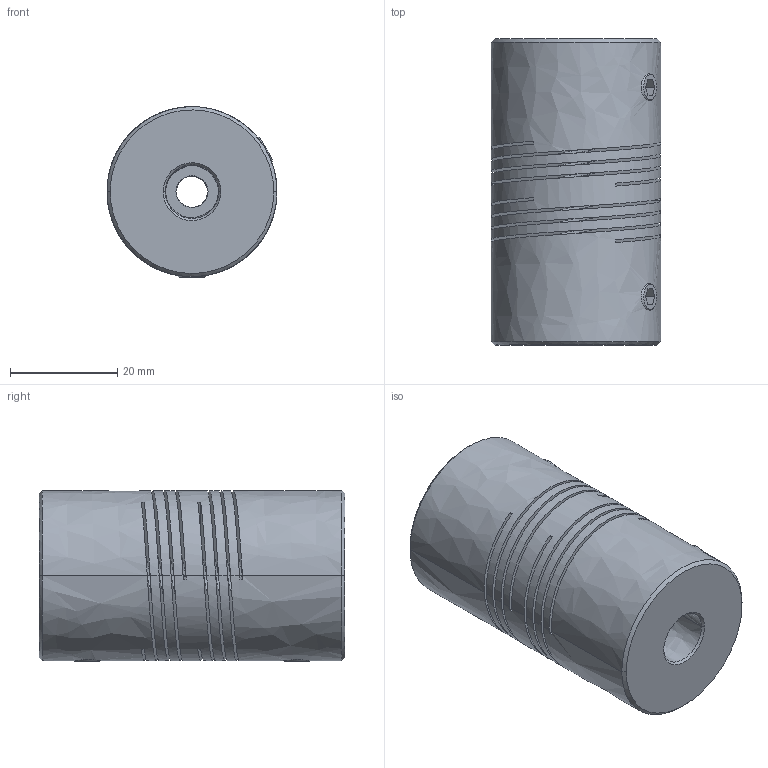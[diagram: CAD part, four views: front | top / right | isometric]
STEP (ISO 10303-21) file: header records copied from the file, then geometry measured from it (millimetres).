
FILE_DESCRIPTION((''),'2;1');
FILE_NAME('730_32','2026-02-24T',('SYSTEM'),(''),'PRO/ENGINEER BY PARAMETRIC TECHNOLOGY CORPORATION, 2016360','PRO/ENGINEER BY PARAMETRIC TECHNOLOGY CORPORATION, 2016360','');
FILE_SCHEMA(('AUTOMOTIVE_DESIGN { 1 0 10303 214 1 1 1 1 }'));
Length unit declared in the file: inch
Products named in the file (1): 730_32
Bounding box: 31.75 x 57.15 x 31.87 mm (x, y, z)
Volume: 37420.8 mm3; surface area: 18574.3 mm2
Topology: 1 solids, 1 shells, 128 faces, 375 edges, 242 vertices
Faces by surface type: bspline 128
Entity records: 9228 total; most frequent: CARTESIAN_POINT 6274, ORIENTED_EDGE 734, EDGE_CURVE 367, B_SPLINE_CURVE_WITH_KNOTS 269, VERTEX_POINT 242, EDGE_LOOP 143, FACE_OUTER_BOUND 128, ADVANCED_FACE 128
